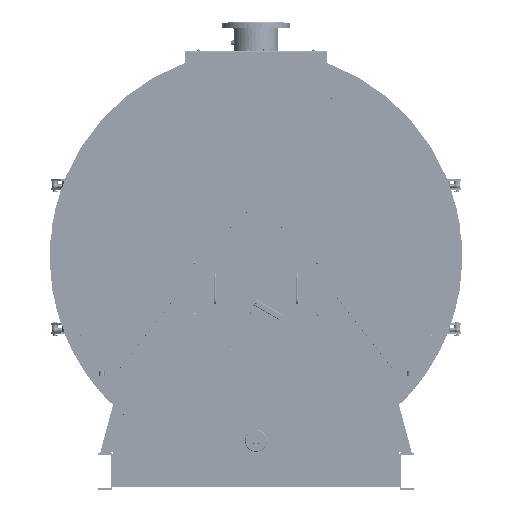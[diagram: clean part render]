
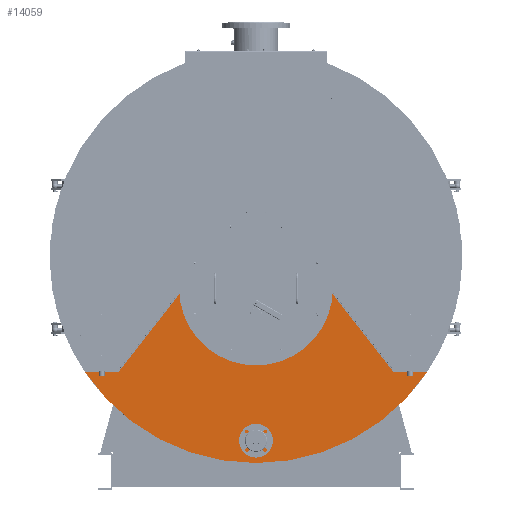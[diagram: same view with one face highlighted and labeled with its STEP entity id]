
A CAD part, left-side view. The second image highlights one B-rep face of the part: STEP entity #14059.
In plain terms, the highlighted planar face has unit normal (-1, 0, 0).
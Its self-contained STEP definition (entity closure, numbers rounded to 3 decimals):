
#14059=ADVANCED_FACE('',(#61181,#61183,#61185,#61187,#61189,#61191),#61193,.F.);
#61181=FACE_BOUND('',#61182,.T.);
#61182=EDGE_LOOP('',(#113255,#113256,#113257,#113258,#113259,#113260,#113261,#113262,
#113263,#113264,#113265,#113266,#113267));
#61183=FACE_BOUND('',#61184,.T.);
#61184=EDGE_LOOP('',(#113268));
#61185=FACE_BOUND('',#61186,.T.);
#61186=EDGE_LOOP('',(#113269));
#61187=FACE_BOUND('',#61188,.T.);
#61188=EDGE_LOOP('',(#113270));
#61189=FACE_BOUND('',#61190,.T.);
#61190=EDGE_LOOP('',(#113271));
#61191=FACE_BOUND('',#61192,.T.);
#61192=EDGE_LOOP('',(#113272));
#61193=PLANE('',#61194);
#61194=AXIS2_PLACEMENT_3D('',#61195,#61196,#61197);
#61195=CARTESIAN_POINT('',(-749.,2.631,365.));
#61196=DIRECTION('',(1.,0.,0.));
#61197=DIRECTION('',(0.,1.,0.));
#113255=ORIENTED_EDGE('',*,*,#142470,.F.);
#113256=ORIENTED_EDGE('',*,*,#142469,.F.);
#113257=ORIENTED_EDGE('',*,*,#142467,.T.);
#113258=ORIENTED_EDGE('',*,*,#142465,.F.);
#113259=ORIENTED_EDGE('',*,*,#142463,.T.);
#113260=ORIENTED_EDGE('',*,*,#142263,.T.);
#113261=ORIENTED_EDGE('',*,*,#142262,.F.);
#113262=ORIENTED_EDGE('',*,*,#142259,.T.);
#113263=ORIENTED_EDGE('',*,*,#142257,.F.);
#113264=ORIENTED_EDGE('',*,*,#142256,.F.);
#113265=ORIENTED_EDGE('',*,*,#142476,.F.);
#113266=ORIENTED_EDGE('',*,*,#142474,.F.);
#113267=ORIENTED_EDGE('',*,*,#142472,.F.);
#113268=ORIENTED_EDGE('',*,*,#142477,.T.);
#113269=ORIENTED_EDGE('',*,*,#142479,.T.);
#113270=ORIENTED_EDGE('',*,*,#142478,.T.);
#113271=ORIENTED_EDGE('',*,*,#142481,.T.);
#113272=ORIENTED_EDGE('',*,*,#142480,.T.);
#142256=EDGE_CURVE('',#159610,#159608,#159612,.T.);
#142257=EDGE_CURVE('',#159608,#159613,#159614,.F.);
#142259=EDGE_CURVE('',#159616,#159613,#159617,.T.);
#142262=EDGE_CURVE('',#159616,#159619,#159621,.F.);
#142263=EDGE_CURVE('',#159622,#159619,#159623,.T.);
#142463=EDGE_CURVE('',#159830,#159622,#159832,.T.);
#142465=EDGE_CURVE('',#159830,#159833,#159835,.F.);
#142467=EDGE_CURVE('',#159836,#159833,#159838,.T.);
#142469=EDGE_CURVE('',#159836,#159839,#159841,.F.);
#142470=EDGE_CURVE('',#159839,#159842,#159843,.F.);
#142472=EDGE_CURVE('',#159842,#159845,#159846,.T.);
#142474=EDGE_CURVE('',#159845,#159848,#159849,.F.);
#142476=EDGE_CURVE('',#159848,#159610,#159851,.T.);
#142477=EDGE_CURVE('',#159852,#159852,#159853,.T.);
#142478=EDGE_CURVE('',#159854,#159854,#159855,.T.);
#142479=EDGE_CURVE('',#159856,#159856,#159857,.T.);
#142480=EDGE_CURVE('',#159858,#159858,#159859,.F.);
#142481=EDGE_CURVE('',#159860,#159860,#159861,.F.);
#159608=VERTEX_POINT('',#200667);
#159610=VERTEX_POINT('',#200671);
#159612=LINE('',#200675,#200676);
#159613=VERTEX_POINT('',#200678);
#159614=CIRCLE('',#200679,3.);
#159616=VERTEX_POINT('',#200686);
#159617=CIRCLE('',#200687,1004.);
#159619=VERTEX_POINT('',#200694);
#159621=CIRCLE('',#200698,3.);
#159622=VERTEX_POINT('',#200702);
#159623=LINE('',#200703,#200704);
#159830=VERTEX_POINT('',#201491);
#159832=LINE('',#201495,#201496);
#159833=VERTEX_POINT('',#201498);
#159835=CIRCLE('',#201502,3.);
#159836=VERTEX_POINT('',#201506);
#159838=CIRCLE('',#201510,350.);
#159839=VERTEX_POINT('',#201514);
#159841=CIRCLE('',#201518,3.);
#159842=VERTEX_POINT('',#201522);
#159843=CIRCLE('',#201523,3.);
#159845=VERTEX_POINT('',#201530);
#159846=CIRCLE('',#201531,350.);
#159848=VERTEX_POINT('',#201538);
#159849=CIRCLE('',#201539,3.);
#159851=LINE('',#201546,#201547);
#159852=VERTEX_POINT('',#201549);
#159853=CIRCLE('',#201550,35.);
#159854=VERTEX_POINT('',#201554);
#159855=CIRCLE('',#201555,2.05);
#159856=VERTEX_POINT('',#201559);
#159857=CIRCLE('',#201560,2.05);
#159858=VERTEX_POINT('',#201564);
#159859=CIRCLE('',#201565,2.05);
#159860=VERTEX_POINT('',#201569);
#159861=CIRCLE('',#201570,2.05);
#200667=CARTESIAN_POINT('',(-749.,-827.667,-195.));
#200671=CARTESIAN_POINT('',(-749.,-668.316,-195.));
#200675=CARTESIAN_POINT('',(-749.,-668.316,-195.));
#200676=VECTOR('',#200677,1.);
#200677=DIRECTION('',(0.,-1.,0.));
#200678=CARTESIAN_POINT('',(-749.,-830.147,-199.687));
#200679=AXIS2_PLACEMENT_3D('',#200680,#200681,#200682);
#200680=CARTESIAN_POINT('',(-749.,-827.667,-198.));
#200681=DIRECTION('',(-1.,0.,0.));
#200682=DIRECTION('',(0.,-0.827,-0.562));
#200686=CARTESIAN_POINT('',(-749.,830.147,-199.687));
#200687=AXIS2_PLACEMENT_3D('',#200688,#200689,#200690);
#200688=CARTESIAN_POINT('',(-749.,0.,365.));
#200689=DIRECTION('',(-1.,0.,0.));
#200690=DIRECTION('',(0.,0.827,-0.562));
#200694=CARTESIAN_POINT('',(-749.,827.667,-195.));
#200698=AXIS2_PLACEMENT_3D('',#200699,#200700,#200701);
#200699=CARTESIAN_POINT('',(-749.,827.667,-198.));
#200700=DIRECTION('',(-1.,0.,0.));
#200701=DIRECTION('',(0.,0.,1.));
#200702=CARTESIAN_POINT('',(-749.,668.316,-195.));
#200703=CARTESIAN_POINT('',(-749.,668.316,-195.));
#200704=VECTOR('',#200705,1.);
#200705=DIRECTION('',(0.,1.,0.));
#201491=CARTESIAN_POINT('',(-749.,355.309,205.631));
#201495=CARTESIAN_POINT('',(-749.,355.309,205.631));
#201496=VECTOR('',#201497,1.);
#201497=DIRECTION('',(0.,0.616,-0.788));
#201498=CARTESIAN_POINT('',(-749.,349.946,203.837));
#201502=AXIS2_PLACEMENT_3D('',#201503,#201504,#201505);
#201503=CARTESIAN_POINT('',(-749.,352.945,203.784));
#201504=DIRECTION('',(-1.,0.,0.));
#201505=DIRECTION('',(0.,-1.,0.018));
#201506=CARTESIAN_POINT('',(-749.,2.975,-139.987));
#201510=AXIS2_PLACEMENT_3D('',#201511,#201512,#201513);
#201511=CARTESIAN_POINT('',(-749.,0.,210.));
#201512=DIRECTION('',(1.,0.,0.));
#201513=DIRECTION('',(0.,0.008,-1.));
#201514=CARTESIAN_POINT('',(-749.,0.,-142.987));
#201518=AXIS2_PLACEMENT_3D('',#201519,#201520,#201521);
#201519=CARTESIAN_POINT('',(-749.,3.,-142.987));
#201520=DIRECTION('',(-1.,0.,0.));
#201521=DIRECTION('',(0.,-1.,0.));
#201522=CARTESIAN_POINT('',(-749.,-2.975,-139.987));
#201523=AXIS2_PLACEMENT_3D('',#201524,#201525,#201526);
#201524=CARTESIAN_POINT('',(-749.,-3.,-142.987));
#201525=DIRECTION('',(-1.,0.,0.));
#201526=DIRECTION('',(0.,0.008,1.));
#201530=CARTESIAN_POINT('',(-749.,-349.946,203.837));
#201531=AXIS2_PLACEMENT_3D('',#201532,#201533,#201534);
#201532=CARTESIAN_POINT('',(-749.,0.,210.));
#201533=DIRECTION('',(-1.,0.,0.));
#201534=DIRECTION('',(0.,-0.008,-1.));
#201538=CARTESIAN_POINT('',(-749.,-355.309,205.631));
#201539=AXIS2_PLACEMENT_3D('',#201540,#201541,#201542);
#201540=CARTESIAN_POINT('',(-749.,-352.945,203.784));
#201541=DIRECTION('',(-1.,0.,0.));
#201542=DIRECTION('',(0.,-0.788,0.616));
#201546=CARTESIAN_POINT('',(-749.,-355.309,205.631));
#201547=VECTOR('',#201548,1.);
#201548=DIRECTION('',(0.,-0.616,-0.788));
#201549=CARTESIAN_POINT('',(-749.,0.,-495.));
#201550=AXIS2_PLACEMENT_3D('',#201551,#201552,#201553);
#201551=CARTESIAN_POINT('',(-749.,0.,-530.));
#201552=DIRECTION('',(1.,0.,0.));
#201553=DIRECTION('',(0.,1.,0.));
#201554=CARTESIAN_POINT('',(-749.,-12.95,-310.));
#201555=AXIS2_PLACEMENT_3D('',#201556,#201557,#201558);
#201556=CARTESIAN_POINT('',(-749.,-15.,-310.));
#201557=DIRECTION('',(1.,0.,0.));
#201558=DIRECTION('',(0.,1.,0.));
#201559=CARTESIAN_POINT('',(-749.,-12.95,-210.));
#201560=AXIS2_PLACEMENT_3D('',#201561,#201562,#201563);
#201561=CARTESIAN_POINT('',(-749.,-15.,-210.));
#201562=DIRECTION('',(1.,0.,0.));
#201563=DIRECTION('',(0.,1.,0.));
#201564=CARTESIAN_POINT('',(-749.,12.95,-310.));
#201565=AXIS2_PLACEMENT_3D('',#201566,#201567,#201568);
#201566=CARTESIAN_POINT('',(-749.,15.,-310.));
#201567=DIRECTION('',(-1.,0.,0.));
#201568=DIRECTION('',(0.,-1.,0.));
#201569=CARTESIAN_POINT('',(-749.,12.95,-210.));
#201570=AXIS2_PLACEMENT_3D('',#201571,#201572,#201573);
#201571=CARTESIAN_POINT('',(-749.,15.,-210.));
#201572=DIRECTION('',(-1.,0.,0.));
#201573=DIRECTION('',(0.,-1.,0.));
